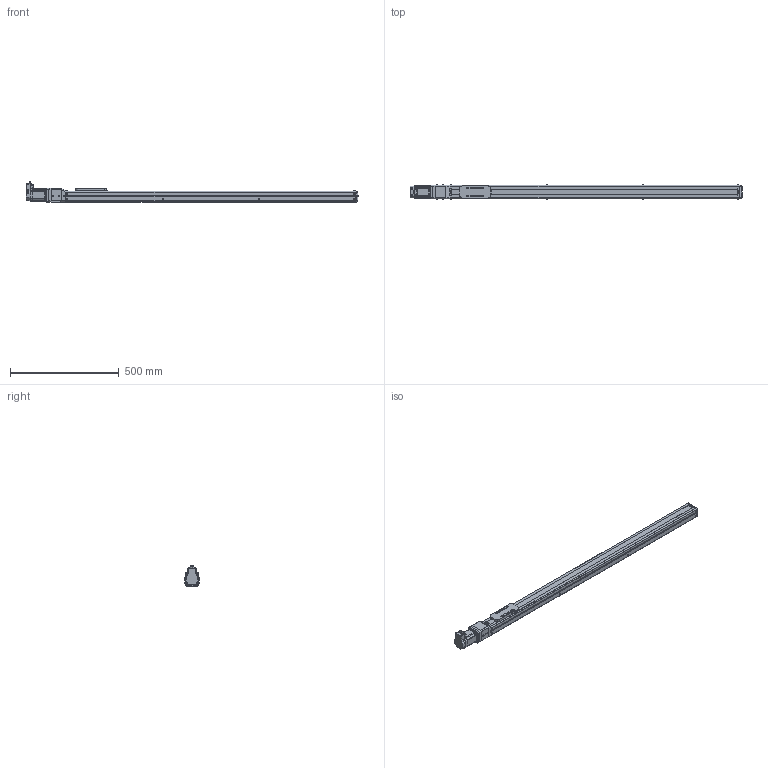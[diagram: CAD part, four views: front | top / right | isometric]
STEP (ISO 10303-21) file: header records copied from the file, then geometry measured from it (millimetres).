
FILE_DESCRIPTION(('FreeCAD Model'),'2;1');
FILE_NAME('Open CASCADE Shape Model','2023-08-02T11:17:40',('Author'),( ''),'Open CASCADE STEP processor 7.5','FreeCAD','Unknown');
FILE_SCHEMA(('AUTOMOTIVE_DESIGN { 1 0 10303 214 1 1 1 1 }'));
Length unit declared in the file: millimetre
Products named in the file (19): RSA1211; 1; 6; 5; 12; 2; 3; 9; 4; 11; 7; 13; 10; 8; Shapes; KSF6-20-1100-0-A0(0); KSF6---(Cover); KSF6-10-0050---(slider); KSF6-20-01100-A0 (01100A0No0)---(body)
Assembly tree (18 placements, depth 3):
  RSA1211
    1
    6
    5
    12
    2
    3
    9
    4
    11
    7
    13
    10
    8
    Shapes
    KSF6-20-1100-0-A0(0)
      KSF6---(Cover)
      KSF6-10-0050---(slider)
      KSF6-20-01100-A0 (01100A0No0)---(body)
Bounding box: 1523 x 66.4 x 93.17 mm (x, y, z)
Volume: 4755642.7 mm3; surface area: 484360 mm2
Topology: 17 solids, 17 shells, 1603 faces, 4265 edges, 2801 vertices
Faces by surface type: plane 1147, cylinder 318, cone 75, bspline 32, torus 27, revolution 4
Full cylindrical faces by diameter (mm): 2.113 x8, 2.6 x4, 3 x2, 3.242 x5, 4.134 x4, 4.5 x2, 5 x1, 5.5 x20, 6.5 x4, 9 x1, 9.5 x14, 12 x1, 15.5 x1, 17 x1, 44 x1, 50 x1
Entity records: 112540 total; most frequent: CARTESIAN_POINT 26494, DIRECTION 16010, LINE 10839, VECTOR 10839, ORIENTED_EDGE 8490, PCURVE 8490, DEFINITIONAL_REPRESENTATION 8490, EDGE_CURVE 4245
